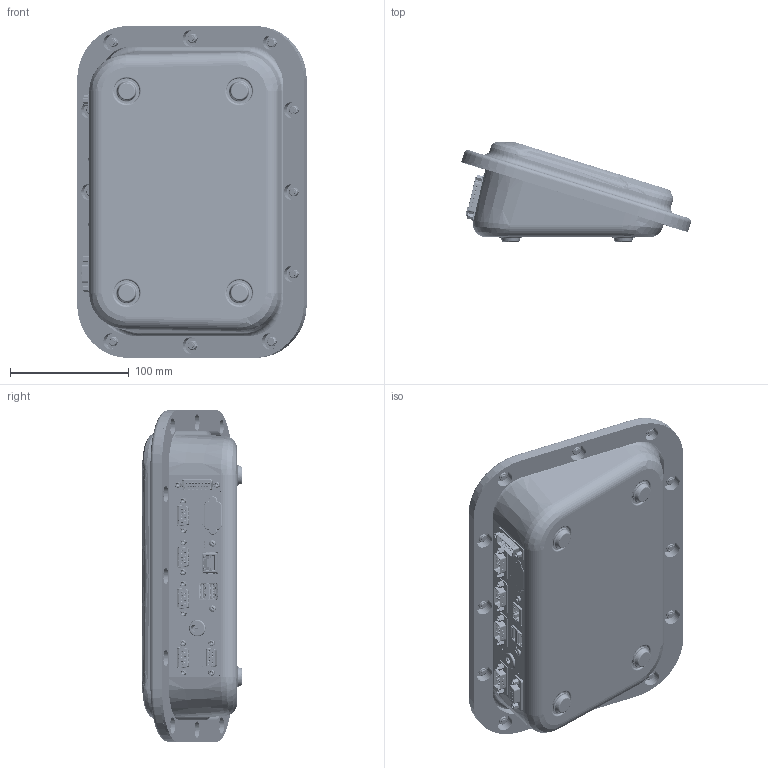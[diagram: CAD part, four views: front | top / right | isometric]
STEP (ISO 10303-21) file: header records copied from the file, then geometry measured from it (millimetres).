
FILE_DESCRIPTION((''),'1');
FILE_NAME('EILH_version-D.step','2025-10-28T09:38:53',(''),(''),'','','');
FILE_SCHEMA(('AUTOMOTIVE_DESIGN { 1 0 10303 214 1 1 1 1 }'));
Products named in the file (28): EILH version-D; EILH part 02; EILH seal 01; EILH nut 01; EILH part 04; EILH part 05; EILH connector 01; EILH part 06; EILH part 07; EILH part 08; EILH cover 01; EILH base 01; EILH part 09; EILH part 11; EILH part 12; EILH base 02; EILH housing 01; EILH part 13; EILH display 01; EILH part 14; EILH part 15; EILH part 16; EILH cover 02; EILH circuit board 01; EILH bracket 01; EILH part 17; EILH circuit board 02; EILH screw 01
Assembly tree (60 placements, depth 5):
  EILH version-D
    EILH part 02
    EILH seal 01
    EILH nut 01  x12
    EILH part 04
    EILH part 05  x4
    EILH connector 01
    EILH part 06
    EILH part 07
    EILH part 08  x4
    EILH cover 01
    EILH circuit board 01
      EILH housing 01
        EILH base 01
          EILH part 09  x4
          EILH part 11  x8
          EILH part 12  x4
          EILH base 02
        EILH part 13
        EILH display 01  x2
        EILH part 14
        EILH part 15
        EILH part 16
        EILH cover 02
      EILH bracket 01  x2
      EILH part 17
      EILH circuit board 02
    EILH screw 01  x2
Bounding box: 193.65 x 84.19 x 280.03 mm (x, y, z)
Volume: 272778.2 mm3; surface area: 412984.8 mm2
Topology: 56 solids, 82 shells, 10925 faces, 29638 edges, 18975 vertices
Faces by surface type: plane 5913, cylinder 3517, cone 552, bspline 514, torus 370, sphere 59
Entity records: 350668 total; most frequent: CARTESIAN_POINT 156449, ORIENTED_EDGE 40804, DIRECTION 38796, EDGE_CURVE 20426, VERTEX_POINT 13197, AXIS2_PLACEMENT_3D 13017, LINE 12762, VECTOR 12762
